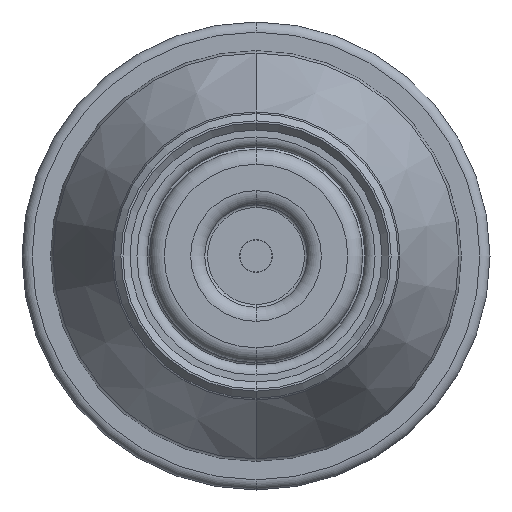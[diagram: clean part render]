
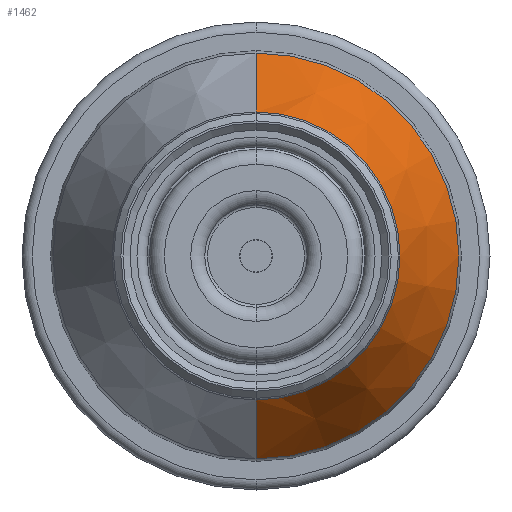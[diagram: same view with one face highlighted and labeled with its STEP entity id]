
A CAD part, front view. The second image highlights one B-rep face of the part: STEP entity #1462.
In plain terms, the highlighted conical face has half-angle 25 degrees and reference radius 34.078 mm.
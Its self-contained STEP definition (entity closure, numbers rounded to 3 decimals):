
#362 = CIRCLE ( 'NONE', #8590, 24.181 ) ;
#803 = LINE ( 'NONE', #2050, #9114 ) ;
#1313 = CARTESIAN_POINT ( 'NONE',  ( 0., -9.172, 34.078 ) ) ;
#1462 = ADVANCED_FACE ( 'NONE', ( #5047 ), #3735, .T. ) ;
#1525 = DIRECTION ( 'NONE',  ( 0., 0., 1. ) ) ;
#1888 = DIRECTION ( 'NONE',  ( 0., 0.906, -0.423 ) ) ;
#2050 = CARTESIAN_POINT ( 'NONE',  ( 0., -9.172, -34.078 ) ) ;
#2139 = EDGE_CURVE ( 'NONE', #11998, #2821, #362, .T. ) ;
#2247 = VERTEX_POINT ( 'NONE', #11774 ) ;
#2306 = DIRECTION ( 'NONE',  ( 0., 1., 0. ) ) ;
#2821 = VERTEX_POINT ( 'NONE', #3586 ) ;
#2875 = EDGE_CURVE ( 'NONE', #11998, #11069, #803, .T. ) ;
#3222 = CIRCLE ( 'NONE', #3266, 34.078 ) ;
#3266 = AXIS2_PLACEMENT_3D ( 'NONE', #3741, #3709, #3694 ) ;
#3586 = CARTESIAN_POINT ( 'NONE',  ( 0., -30.397, 24.181 ) ) ;
#3694 = DIRECTION ( 'NONE',  ( 0., 0., -1. ) ) ;
#3709 = DIRECTION ( 'NONE',  ( 0., -1., 0. ) ) ;
#3735 = CONICAL_SURFACE ( 'NONE', #9980, 34.078, 0.436 ) ;
#3741 = CARTESIAN_POINT ( 'NONE',  ( 0., -9.172, 0. ) ) ;
#4349 = EDGE_CURVE ( 'NONE', #11069, #2247, #3222, .T. ) ;
#4525 = ORIENTED_EDGE ( 'NONE', *, *, #2139, .F. ) ;
#5047 = FACE_OUTER_BOUND ( 'NONE', #5882, .T. ) ;
#5436 = EDGE_CURVE ( 'NONE', #2821, #2247, #8019, .T. ) ;
#5458 = ORIENTED_EDGE ( 'NONE', *, *, #5436, .F. ) ;
#5882 = EDGE_LOOP ( 'NONE', ( #4525, #6819, #12217, #5458 ) ) ;
#6819 = ORIENTED_EDGE ( 'NONE', *, *, #2875, .T. ) ;
#8019 = LINE ( 'NONE', #1313, #12543 ) ;
#8590 = AXIS2_PLACEMENT_3D ( 'NONE', #12143, #12131, #12092 ) ;
#8598 = CARTESIAN_POINT ( 'NONE',  ( 0., -9.172, -34.078 ) ) ;
#9023 = DIRECTION ( 'NONE',  ( 0., 0.906, 0.423 ) ) ;
#9114 = VECTOR ( 'NONE', #1888, 1000. ) ;
#9958 = CARTESIAN_POINT ( 'NONE',  ( 0., -9.172, 0. ) ) ;
#9980 = AXIS2_PLACEMENT_3D ( 'NONE', #9958, #2306, #1525 ) ;
#11069 = VERTEX_POINT ( 'NONE', #8598 ) ;
#11774 = CARTESIAN_POINT ( 'NONE',  ( 0., -9.172, 34.078 ) ) ;
#11998 = VERTEX_POINT ( 'NONE', #15958 ) ;
#12092 = DIRECTION ( 'NONE',  ( 0., 0., -1. ) ) ;
#12131 = DIRECTION ( 'NONE',  ( 0., -1., 0. ) ) ;
#12143 = CARTESIAN_POINT ( 'NONE',  ( 0., -30.397, 0. ) ) ;
#12217 = ORIENTED_EDGE ( 'NONE', *, *, #4349, .T. ) ;
#12543 = VECTOR ( 'NONE', #9023, 1000. ) ;
#15958 = CARTESIAN_POINT ( 'NONE',  ( 0., -30.397, -24.181 ) ) ;
